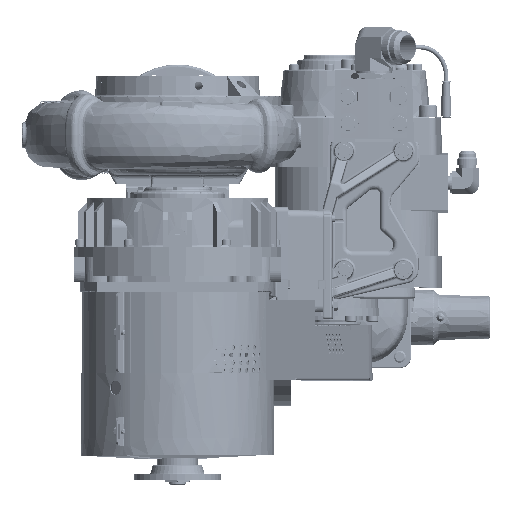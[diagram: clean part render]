
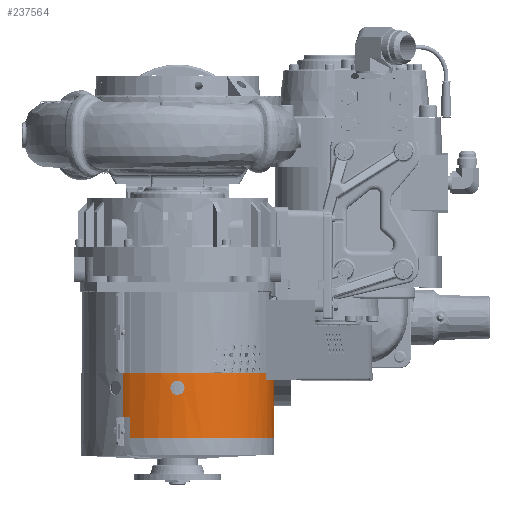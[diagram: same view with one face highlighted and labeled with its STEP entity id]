
A CAD part, front view. The second image highlights one B-rep face of the part: STEP entity #237564.
In plain terms, the highlighted cylindrical face has radius 130.175 mm (diameter 260.35 mm), a partial arc.
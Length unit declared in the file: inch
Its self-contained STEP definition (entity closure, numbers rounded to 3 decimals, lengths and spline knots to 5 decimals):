
#233060=CARTESIAN_POINT('',(-0.375,-5.11126,-6.96));
#233061=CARTESIAN_POINT('',(-0.375,-5.11126,-6.91955));
#233062=CARTESIAN_POINT('',(-0.36261,-5.11219,
-6.84293));
#233063=CARTESIAN_POINT('',(-0.30848,-5.11586,
-6.73584));
#233064=CARTESIAN_POINT('',(-0.22401,-5.12041,
-6.65156));
#233065=CARTESIAN_POINT('',(-0.11765,-5.12407,
-6.59738));
#233066=CARTESIAN_POINT('',(0.,-5.12546,
-6.57881));
#233067=CARTESIAN_POINT('',(0.11765,-5.12407,
-6.59738));
#233068=CARTESIAN_POINT('',(0.22401,-5.12041,
-6.65156));
#233069=CARTESIAN_POINT('',(0.30848,-5.11586,
-6.73584));
#233070=CARTESIAN_POINT('',(0.36261,-5.11219,
-6.84293));
#233071=CARTESIAN_POINT('',(0.375,-5.11126,-6.91955));
#233072=CARTESIAN_POINT('',(0.375,-5.11126,-6.96));
#233074=CARTESIAN_POINT('',(0.375,-5.11126,-6.96));
#233075=CARTESIAN_POINT('',(0.375,-5.11126,-7.00045));
#233076=CARTESIAN_POINT('',(0.36261,-5.11219,
-7.07707));
#233077=CARTESIAN_POINT('',(0.30848,-5.11586,
-7.18416));
#233078=CARTESIAN_POINT('',(0.22401,-5.12041,
-7.26844));
#233079=CARTESIAN_POINT('',(0.11765,-5.12407,
-7.32262));
#233080=CARTESIAN_POINT('',(0.,-5.12546,
-7.34119));
#233081=CARTESIAN_POINT('',(-0.11765,-5.12407,
-7.32262));
#233082=CARTESIAN_POINT('',(-0.22401,-5.12041,
-7.26844));
#233083=CARTESIAN_POINT('',(-0.30848,-5.11586,
-7.18416));
#233084=CARTESIAN_POINT('',(-0.36261,-5.11219,
-7.07707));
#233085=CARTESIAN_POINT('',(-0.375,-5.11126,-7.00045));
#233086=CARTESIAN_POINT('',(-0.375,-5.11126,-6.96));
#233088=CARTESIAN_POINT('',(0.,0.,-8.53));
#233089=DIRECTION('',(0.,0.,-1.));
#233090=DIRECTION('',(0.563,0.827,0.));
#233091=AXIS2_PLACEMENT_3D('',#233088,#233089,#233090);
#233093=DIRECTION('',(0.,0.,-1.));
#233094=VECTOR('',#233093,1.12);
#233095=CARTESIAN_POINT('',(3.24132,3.96982,-8.53));
#233096=LINE('',#233095,#233094);
#233097=CARTESIAN_POINT('',(0.,0.,-9.65));
#233098=DIRECTION('',(0.,0.,-1.));
#233099=DIRECTION('',(0.632,0.775,0.));
#233100=AXIS2_PLACEMENT_3D('',#233097,#233098,#233099);
#233102=CARTESIAN_POINT('',(0.,0.,-9.65));
#233103=DIRECTION('',(0.,0.,-1.));
#233104=DIRECTION('',(0.679,0.734,0.));
#233105=AXIS2_PLACEMENT_3D('',#233102,#233103,#233104);
#233107=CARTESIAN_POINT('',(0.,0.,-9.65));
#233108=DIRECTION('',(0.,0.,-1.));
#233109=DIRECTION('',(0.925,-0.379,0.));
#233110=AXIS2_PLACEMENT_3D('',#233107,#233108,#233109);
#233112=CARTESIAN_POINT('',(0.,0.,-9.65));
#233113=DIRECTION('',(0.,0.,-1.));
#233114=DIRECTION('',(0.725,-0.688,0.));
#233115=AXIS2_PLACEMENT_3D('',#233112,#233113,#233114);
#233117=CARTESIAN_POINT('',(0.,0.,-9.65));
#233118=DIRECTION('',(0.,0.,-1.));
#233119=DIRECTION('',(0.586,-0.811,0.));
#233120=AXIS2_PLACEMENT_3D('',#233117,#233118,#233119);
#233122=CARTESIAN_POINT('',(0.,0.,-9.65));
#233123=DIRECTION('',(0.,0.,-1.));
#233124=DIRECTION('',(0.532,-0.847,0.));
#233125=AXIS2_PLACEMENT_3D('',#233122,#233123,#233124);
#233127=DIRECTION('',(0.,0.,1.));
#233128=VECTOR('',#233127,1.12);
#233129=CARTESIAN_POINT('',(-2.50273,-4.47236,-9.65));
#233130=LINE('',#233129,#233128);
#233131=CARTESIAN_POINT('',(0.,0.,-8.53));
#233132=DIRECTION('',(0.,0.,-1.));
#233133=DIRECTION('',(-0.488,-0.873,0.));
#233134=AXIS2_PLACEMENT_3D('',#233131,#233132,#233133);
#233136=DIRECTION('',(0.,0.,-1.));
#233137=VECTOR('',#233136,2.375);
#233138=CARTESIAN_POINT('',(-2.88299,-4.23721,-6.155));
#233139=LINE('',#233138,#233137);
#233140=CARTESIAN_POINT('',(0.,0.,-6.155));
#233141=DIRECTION('',(0.,0.,-1.));
#233142=DIRECTION('',(-0.488,-0.873,0.));
#233143=AXIS2_PLACEMENT_3D('',#233140,#233141,#233142);
#233145=CARTESIAN_POINT('',(0.,0.,-6.155));
#233146=DIRECTION('',(0.,0.,1.));
#233147=DIRECTION('',(-0.488,-0.873,0.));
#233148=AXIS2_PLACEMENT_3D('',#233145,#233146,#233147);
#233150=DIRECTION('',(0.,0.,-1.));
#233151=VECTOR('',#233150,0.375);
#233152=CARTESIAN_POINT('',(4.7253,-1.98424,-6.155));
#233153=LINE('',#233152,#233151);
#233154=CARTESIAN_POINT('',(0.,0.,-6.53));
#233155=DIRECTION('',(0.,0.,1.));
#233156=DIRECTION('',(0.922,-0.387,0.));
#233157=AXIS2_PLACEMENT_3D('',#233154,#233155,#233156);
#233159=CARTESIAN_POINT('',(0.,0.,-6.53));
#233160=DIRECTION('',(0.,0.,1.));
#233161=DIRECTION('',(0.958,-0.285,0.));
#233162=AXIS2_PLACEMENT_3D('',#233159,#233160,#233161);
#233164=DIRECTION('',(0.,0.,-1.));
#233165=VECTOR('',#233164,2.);
#233166=CARTESIAN_POINT('',(2.88299,4.23721,-6.53));
#233167=LINE('',#233166,#233165);
#235782=CARTESIAN_POINT('',(4.7253,-1.98424,-6.155));
#235783=CARTESIAN_POINT('',(4.7253,-1.98424,-6.53));
#235784=VERTEX_POINT('',#235782);
#235785=VERTEX_POINT('',#235783);
#235788=CARTESIAN_POINT('',(4.91202,-1.46209,-6.53));
#235789=VERTEX_POINT('',#235788);
#235790=VERTEX_POINT('',#233060);
#235791=VERTEX_POINT('',#233072);
#235873=CARTESIAN_POINT('',(2.88299,4.23721,-6.53));
#235874=VERTEX_POINT('',#235873);
#235912=CARTESIAN_POINT('',(-2.50273,-4.47236,-6.155));
#235913=CARTESIAN_POINT('',(-2.88299,-4.23721,-6.155));
#235914=VERTEX_POINT('',#235912);
#235915=VERTEX_POINT('',#235913);
#235924=CARTESIAN_POINT('',(2.88299,4.23721,-8.53));
#235925=CARTESIAN_POINT('',(3.24132,3.96982,-8.53));
#235926=VERTEX_POINT('',#235924);
#235927=VERTEX_POINT('',#235925);
#235928=CARTESIAN_POINT('',(-2.50273,-4.47236,-8.53));
#235929=CARTESIAN_POINT('',(-2.88299,-4.23721,-8.53));
#235930=VERTEX_POINT('',#235928);
#235931=VERTEX_POINT('',#235929);
#235932=CARTESIAN_POINT('',(-2.50273,-4.47236,-9.65));
#235933=VERTEX_POINT('',#235932);
#235934=CARTESIAN_POINT('',(3.24132,3.96982,-9.65));
#235935=VERTEX_POINT('',#235934);
#236088=CARTESIAN_POINT('',(3.71758,-3.52777,-9.65));
#236089=CARTESIAN_POINT('',(3.00175,-4.15393,-9.65));
#236090=VERTEX_POINT('',#236088);
#236091=VERTEX_POINT('',#236089);
#236096=CARTESIAN_POINT('',(2.72752,-4.33892,-9.65));
#236097=VERTEX_POINT('',#236096);
#236100=CARTESIAN_POINT('',(4.74295,-1.94165,-9.65));
#236101=VERTEX_POINT('',#236100);
#236129=CARTESIAN_POINT('',(3.48223,3.76028,-9.65));
#236130=VERTEX_POINT('',#236129);
#237520=CARTESIAN_POINT('',(0.,0.,-6.53));
#237521=DIRECTION('',(0.,0.,-1.));
#237522=DIRECTION('',(1.,0.,0.));
#237523=AXIS2_PLACEMENT_3D('',#237520,#237521,#237522);
#237524=CYLINDRICAL_SURFACE('',#237523,5.125);
#237526=ORIENTED_EDGE('',*,*,#237525,.T.);
#237528=ORIENTED_EDGE('',*,*,#237527,.T.);
#237530=ORIENTED_EDGE('',*,*,#237529,.T.);
#237532=ORIENTED_EDGE('',*,*,#237531,.T.);
#237534=ORIENTED_EDGE('',*,*,#237533,.T.);
#237536=ORIENTED_EDGE('',*,*,#237535,.T.);
#237538=ORIENTED_EDGE('',*,*,#237537,.T.);
#237540=ORIENTED_EDGE('',*,*,#237539,.T.);
#237542=ORIENTED_EDGE('',*,*,#237541,.T.);
#237544=ORIENTED_EDGE('',*,*,#237543,.T.);
#237545=ORIENTED_EDGE('',*,*,#237317,.F.);
#237546=ORIENTED_EDGE('',*,*,#237514,.F.);
#237548=ORIENTED_EDGE('',*,*,#237547,.T.);
#237550=ORIENTED_EDGE('',*,*,#237549,.T.);
#237552=ORIENTED_EDGE('',*,*,#237551,.T.);
#237554=ORIENTED_EDGE('',*,*,#237553,.T.);
#237555=ORIENTED_EDGE('',*,*,#237399,.T.);
#237556=EDGE_LOOP('',(#237526,#237528,#237530,#237532,#237534,#237536,#237538,
#237540,#237542,#237544,#237545,#237546,#237548,#237550,#237552,#237554,
#237555));
#237557=FACE_OUTER_BOUND('',#237556,.F.);
#237559=ORIENTED_EDGE('',*,*,#237558,.F.);
#237561=ORIENTED_EDGE('',*,*,#237560,.F.);
#237562=EDGE_LOOP('',(#237559,#237561));
#237563=FACE_BOUND('',#237562,.F.);
#237564=ADVANCED_FACE('',(#237557,#237563),#237524,.T.);
#233073=B_SPLINE_CURVE_WITH_KNOTS('',3,(#233060,#233061,#233062,#233063,#233064,
#233065,#233066,#233067,#233068,#233069,#233070,#233071,#233072),.UNSPECIFIED.,
.F.,.F.,(4,1,1,1,1,1,1,1,1,1,4),(0.,0.1,0.2,0.3,0.4,0.5,0.6,0.7,
0.8,0.9,1.),.UNSPECIFIED.);
#233087=B_SPLINE_CURVE_WITH_KNOTS('',3,(#233074,#233075,#233076,#233077,#233078,
#233079,#233080,#233081,#233082,#233083,#233084,#233085,#233086),.UNSPECIFIED.,
.F.,.F.,(4,1,1,1,1,1,1,1,1,1,4),(0.,0.1,0.2,0.3,0.4,0.5,0.6,0.7,
0.8,0.9,1.),.UNSPECIFIED.);
#233092=CIRCLE('',#233091,5.125);
#233101=CIRCLE('',#233100,5.125);
#233106=CIRCLE('',#233105,5.125);
#233111=CIRCLE('',#233110,5.125);
#233116=CIRCLE('',#233115,5.125);
#233121=CIRCLE('',#233120,5.125);
#233126=CIRCLE('',#233125,5.125);
#233135=CIRCLE('',#233134,5.125);
#233144=CIRCLE('',#233143,5.125);
#233149=CIRCLE('',#233148,5.125);
#233158=CIRCLE('',#233157,5.125);
#233163=CIRCLE('',#233162,5.125);
#237317=EDGE_CURVE('',#235915,#235931,#233139,.T.);
#237399=EDGE_CURVE('',#235874,#235926,#233167,.T.);
#237514=EDGE_CURVE('',#235914,#235915,#233144,.T.);
#237525=EDGE_CURVE('',#235926,#235927,#233092,.T.);
#237527=EDGE_CURVE('',#235927,#235935,#233096,.T.);
#237529=EDGE_CURVE('',#235935,#236130,#233101,.T.);
#237531=EDGE_CURVE('',#236130,#236101,#233106,.T.);
#237533=EDGE_CURVE('',#236101,#236090,#233111,.T.);
#237535=EDGE_CURVE('',#236090,#236091,#233116,.T.);
#237537=EDGE_CURVE('',#236091,#236097,#233121,.T.);
#237539=EDGE_CURVE('',#236097,#235933,#233126,.T.);
#237541=EDGE_CURVE('',#235933,#235930,#233130,.T.);
#237543=EDGE_CURVE('',#235930,#235931,#233135,.T.);
#237547=EDGE_CURVE('',#235914,#235784,#233149,.T.);
#237549=EDGE_CURVE('',#235784,#235785,#233153,.T.);
#237551=EDGE_CURVE('',#235785,#235789,#233158,.T.);
#237553=EDGE_CURVE('',#235789,#235874,#233163,.T.);
#237558=EDGE_CURVE('',#235790,#235791,#233073,.T.);
#237560=EDGE_CURVE('',#235791,#235790,#233087,.T.);
